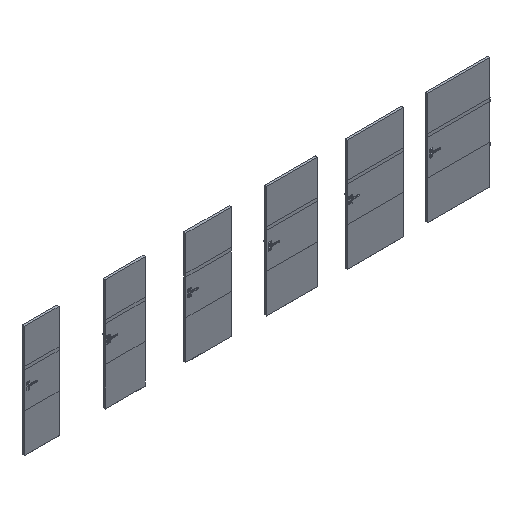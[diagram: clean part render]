
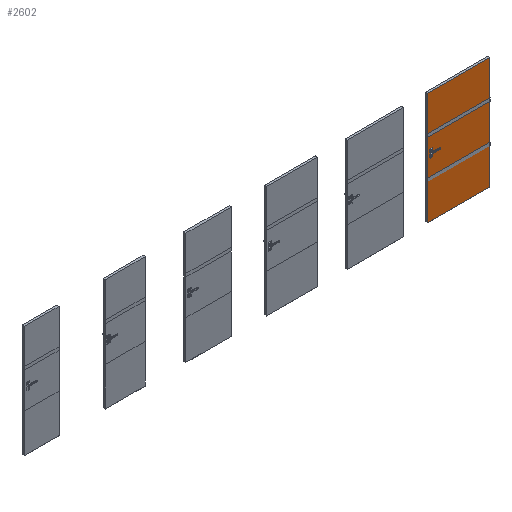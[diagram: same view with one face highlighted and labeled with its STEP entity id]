
A CAD part, isometric view. The second image highlights one B-rep face of the part: STEP entity #2602.
In plain terms, the highlighted planar face has unit normal (0, -1, 0).
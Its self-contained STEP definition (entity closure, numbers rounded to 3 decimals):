
#2602=ADVANCED_FACE('',(#4366),#3698,.F.);
#3698=PLANE('',#19143);
#4366=FACE_OUTER_BOUND('',#5518,.T.);
#5518=EDGE_LOOP('',(#7550,#7551,#7552,#7553));
#7550=ORIENTED_EDGE('',*,*,#13744,.T.);
#7551=ORIENTED_EDGE('',*,*,#13745,.T.);
#7552=ORIENTED_EDGE('',*,*,#13746,.F.);
#7553=ORIENTED_EDGE('',*,*,#13747,.F.);
#12010=VERTEX_POINT('',#27953);
#12011=VERTEX_POINT('',#27954);
#12012=VERTEX_POINT('',#27956);
#12013=VERTEX_POINT('',#27958);
#13744=EDGE_CURVE('',#12010,#12011,#16144,.T.);
#13745=EDGE_CURVE('',#12011,#12012,#16145,.T.);
#13746=EDGE_CURVE('',#12013,#12012,#16146,.T.);
#13747=EDGE_CURVE('',#12010,#12013,#16147,.T.);
#16144=LINE('',#27952,#17644);
#16145=LINE('',#27955,#17645);
#16146=LINE('',#27957,#17646);
#16147=LINE('',#27959,#17647);
#17644=VECTOR('',#21515,1.);
#17645=VECTOR('',#21516,1.);
#17646=VECTOR('',#21517,1.);
#17647=VECTOR('',#21518,1.);
#19143=AXIS2_PLACEMENT_3D('',#27960,#21519,#21520);
#21515=DIRECTION('',(0.,0.,-1.));
#21516=DIRECTION('',(1.,0.,0.));
#21517=DIRECTION('',(0.,0.,-1.));
#21518=DIRECTION('',(1.,0.,0.));
#21519=DIRECTION('',(0.,1.,0.));
#21520=DIRECTION('',(-1.,0.,0.));
#27952=CARTESIAN_POINT('',(6941.,-39.3,2017.));
#27953=CARTESIAN_POINT('',(6941.,-39.3,2017.));
#27954=CARTESIAN_POINT('',(6941.,-39.3,2.));
#27955=CARTESIAN_POINT('',(7191.,-39.3,2.));
#27956=CARTESIAN_POINT('',(8059.,-39.3,2.));
#27957=CARTESIAN_POINT('',(8059.,-39.3,2017.));
#27958=CARTESIAN_POINT('',(8059.,-39.3,2017.));
#27959=CARTESIAN_POINT('',(7191.,-39.3,2017.));
#27960=CARTESIAN_POINT('',(7191.,-39.3,2017.));
